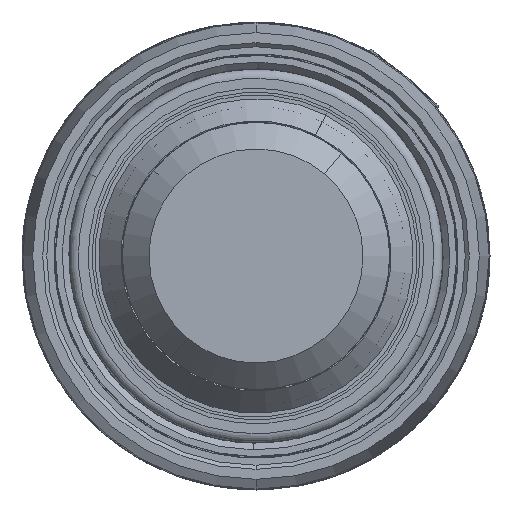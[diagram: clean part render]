
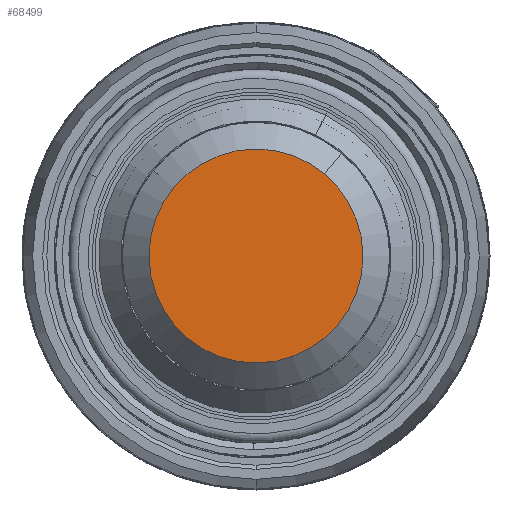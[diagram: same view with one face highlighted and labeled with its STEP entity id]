
A CAD part, front view. The second image highlights one B-rep face of the part: STEP entity #68499.
In plain terms, the highlighted planar face has unit normal (0, -1, 0).
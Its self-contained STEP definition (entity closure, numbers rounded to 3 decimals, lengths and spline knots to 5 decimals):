
#4401 = EDGE_CURVE ( 'NONE', #66373, #36844, #37615, .T. ) ;
#4821 = FACE_OUTER_BOUND ( 'NONE', #5954, .T. ) ;
#5954 = EDGE_LOOP ( 'NONE', ( #29983, #40934 ) ) ;
#13720 = PLANE ( 'NONE',  #56931 ) ;
#15705 = DIRECTION ( 'NONE',  ( -0.641, 0., -0.768 ) ) ;
#29983 = ORIENTED_EDGE ( 'NONE', *, *, #4401, .T. ) ;
#30028 = CARTESIAN_POINT ( 'NONE',  ( 1.17993, -10.53519, 0. ) ) ;
#32206 = AXIS2_PLACEMENT_3D ( 'NONE', #76364, #84566, #78741 ) ;
#32759 = CIRCLE ( 'NONE', #32206, 0.31496 ) ;
#36844 = VERTEX_POINT ( 'NONE', #67190 ) ;
#37615 = CIRCLE ( 'NONE', #84308, 0.31496 ) ;
#40844 = EDGE_CURVE ( 'NONE', #36844, #66373, #32759, .T. ) ;
#40934 = ORIENTED_EDGE ( 'NONE', *, *, #40844, .T. ) ;
#56931 = AXIS2_PLACEMENT_3D ( 'NONE', #80979, #74556, #67270 ) ;
#60388 = CARTESIAN_POINT ( 'NONE',  ( 0.97819, -10.53519, -0.24187 ) ) ;
#62261 = DIRECTION ( 'NONE',  ( 0., -1., 0. ) ) ;
#66373 = VERTEX_POINT ( 'NONE', #60388 ) ;
#67190 = CARTESIAN_POINT ( 'NONE',  ( 1.38166, -10.53519, 0.24187 ) ) ;
#67270 = DIRECTION ( 'NONE',  ( -0.641, 0., -0.768 ) ) ;
#68499 = ADVANCED_FACE ( 'NONE', ( #4821 ), #13720, .F. ) ;
#74556 = DIRECTION ( 'NONE',  ( 0., 1., 0. ) ) ;
#76364 = CARTESIAN_POINT ( 'NONE',  ( 1.17993, -10.53519, 0. ) ) ;
#78741 = DIRECTION ( 'NONE',  ( -0.641, 0., -0.768 ) ) ;
#80979 = CARTESIAN_POINT ( 'NONE',  ( 0.87759, -10.53519, 0.25217 ) ) ;
#84308 = AXIS2_PLACEMENT_3D ( 'NONE', #30028, #62261, #15705 ) ;
#84566 = DIRECTION ( 'NONE',  ( 0., -1., 0. ) ) ;
